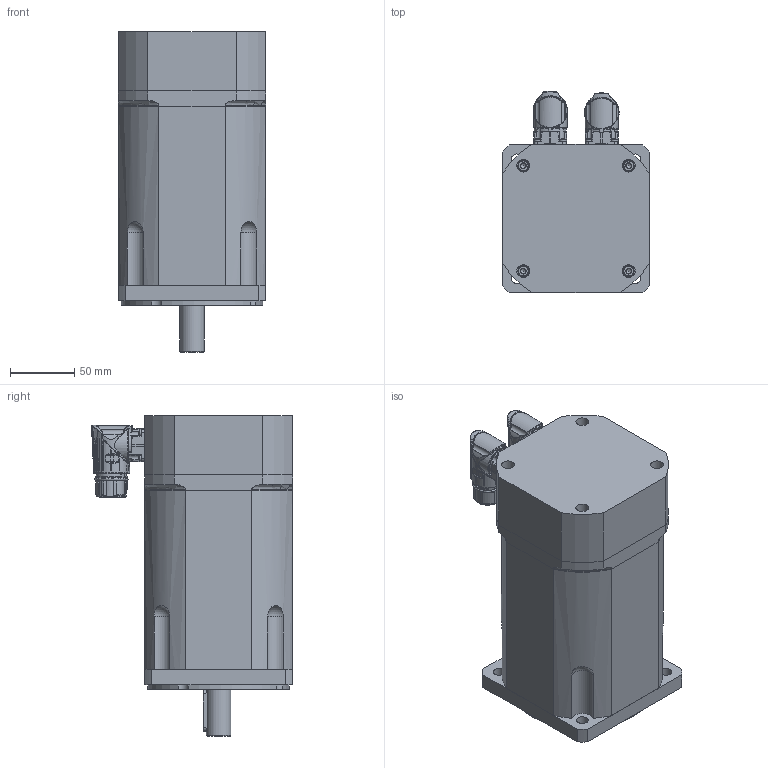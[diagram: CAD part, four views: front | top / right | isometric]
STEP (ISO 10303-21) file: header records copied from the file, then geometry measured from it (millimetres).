
FILE_DESCRIPTION(/* description */ (''),/* implementation_level */ '2;1');
FILE_NAME(/* name */ 'C:\Users\Public\Documents\Autodesk\Inventor LT 2014\Workspace\TG4\DSM5_4x_xxx7\DSM5_41_x1x7.stp',/* time_stamp */ '2016-03-14T13:41:08+01:00',/* author */ ('motion'),/* organization */ (''),/* preprocessor_version */ 'ST-DEVELOPER v15.2',/* originating_system */ 'Autodesk Inventor LT ',/* authorisation */ '');
FILE_SCHEMA (('AUTOMOTIVE_DESIGN { 1 0 10303 214 3 1 1 }'));
Products named in the file (1): DSM5_41_x1x7
Bounding box: 115 x 156.43 x 249.5 mm (x, y, z)
Volume: 2581202.1 mm3; surface area: 223456.9 mm2
Topology: 15 solids, 17 shells, 3085 faces, 7790 edges, 4689 vertices
Faces by surface type: cylinder 883, bspline 854, plane 596, torus 382, cone 250, sphere 120
Full cylindrical faces by diameter (mm): 1.2 x17, 2 x6, 2.15 x6, 2.224 x8, 2.5 x8, 2.7 x8, 3 x1, 4.5 x2, 4.917 x1, 5 x8, 5.5 x3, 5.9 x2, 6 x4, 8.5 x4, 9 x4, 10 x8, 11 x4, 15.2 x1, 19 x1, 19.1 x1, 21.6 x1, 22.5 x1, 23 x2, 24.4 x1, 25 x1, 42 x1, 52 x2, 90 x1
Entity records: 190329 total; most frequent: CARTESIAN_POINT 120176, ORIENTED_EDGE 14668, DIRECTION 12871, EDGE_CURVE 7334, AXIS2_PLACEMENT_3D 5525, VERTEX_POINT 4596, EDGE_LOOP 3476, ADVANCED_FACE 3081
